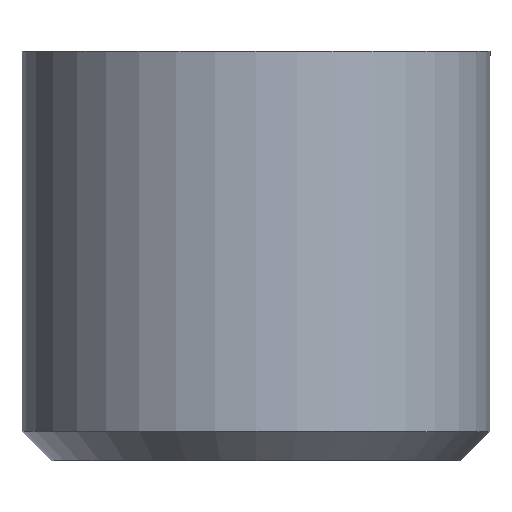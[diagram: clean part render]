
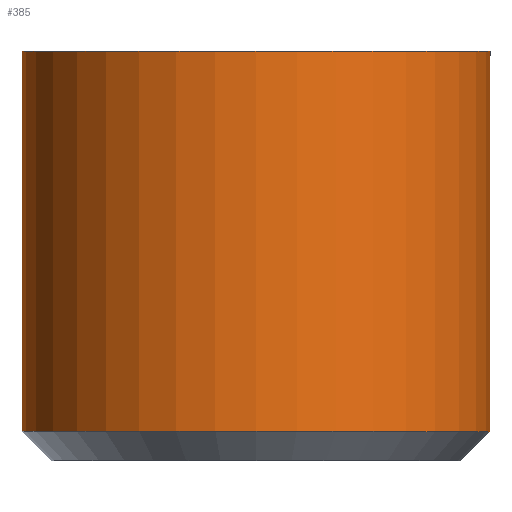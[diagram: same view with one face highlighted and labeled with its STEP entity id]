
A CAD part, front view. The second image highlights one B-rep face of the part: STEP entity #385.
In plain terms, the highlighted cylindrical face has radius 8 mm (diameter 16 mm), a partial arc.
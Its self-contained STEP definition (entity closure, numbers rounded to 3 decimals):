
#29 = VERTEX_POINT ( 'NONE', #331 ) ;
#64 = DIRECTION ( 'NONE',  ( 0., 0., 1. ) ) ;
#89 = VERTEX_POINT ( 'NONE', #400 ) ;
#93 = LINE ( 'NONE', #442, #178 ) ;
#97 = DIRECTION ( 'NONE',  ( -1., 0., 0. ) ) ;
#106 = FACE_OUTER_BOUND ( 'NONE', #249, .T. ) ;
#114 = CIRCLE ( 'NONE', #451, 8. ) ;
#122 = CARTESIAN_POINT ( 'NONE',  ( -8., 0., -1. ) ) ;
#132 = EDGE_CURVE ( 'NONE', #268, #89, #290, .T. ) ;
#156 = DIRECTION ( 'NONE',  ( -1., 0., 0. ) ) ;
#158 = ORIENTED_EDGE ( 'NONE', *, *, #444, .F. ) ;
#171 = DIRECTION ( 'NONE',  ( -1., 0., 0. ) ) ;
#178 = VECTOR ( 'NONE', #305, 1000. ) ;
#181 = DIRECTION ( 'NONE',  ( 0., 0., -1. ) ) ;
#203 = ORIENTED_EDGE ( 'NONE', *, *, #316, .T. ) ;
#205 = DIRECTION ( 'NONE',  ( 0., 0., -1. ) ) ;
#246 = VECTOR ( 'NONE', #181, 1000. ) ;
#247 = CARTESIAN_POINT ( 'NONE',  ( 0., 0., -1. ) ) ;
#249 = EDGE_LOOP ( 'NONE', ( #286, #433, #203, #158 ) ) ;
#268 = VERTEX_POINT ( 'NONE', #381 ) ;
#285 = CYLINDRICAL_SURFACE ( 'NONE', #325, 8. ) ;
#286 = ORIENTED_EDGE ( 'NONE', *, *, #132, .F. ) ;
#289 = VERTEX_POINT ( 'NONE', #122 ) ;
#290 = LINE ( 'NONE', #376, #246 ) ;
#294 = CIRCLE ( 'NONE', #436, 8. ) ;
#305 = DIRECTION ( 'NONE',  ( 0., 0., -1. ) ) ;
#309 = DIRECTION ( 'NONE',  ( 0., 0., -1. ) ) ;
#316 = EDGE_CURVE ( 'NONE', #289, #29, #93, .T. ) ;
#325 = AXIS2_PLACEMENT_3D ( 'NONE', #387, #309, #156 ) ;
#331 = CARTESIAN_POINT ( 'NONE',  ( -8., 0., -14. ) ) ;
#356 = CARTESIAN_POINT ( 'NONE',  ( 0., 0., -14. ) ) ;
#376 = CARTESIAN_POINT ( 'NONE',  ( 8., 0., -8. ) ) ;
#381 = CARTESIAN_POINT ( 'NONE',  ( 8., 0., -1. ) ) ;
#385 = ADVANCED_FACE ( 'NONE', ( #106 ), #285, .T. ) ;
#387 = CARTESIAN_POINT ( 'NONE',  ( 0., 0., -8. ) ) ;
#400 = CARTESIAN_POINT ( 'NONE',  ( 8., 0., -14. ) ) ;
#433 = ORIENTED_EDGE ( 'NONE', *, *, #456, .F. ) ;
#436 = AXIS2_PLACEMENT_3D ( 'NONE', #247, #64, #97 ) ;
#442 = CARTESIAN_POINT ( 'NONE',  ( -8., 0., -8. ) ) ;
#444 = EDGE_CURVE ( 'NONE', #89, #29, #114, .T. ) ;
#451 = AXIS2_PLACEMENT_3D ( 'NONE', #356, #205, #171 ) ;
#456 = EDGE_CURVE ( 'NONE', #289, #268, #294, .T. ) ;
